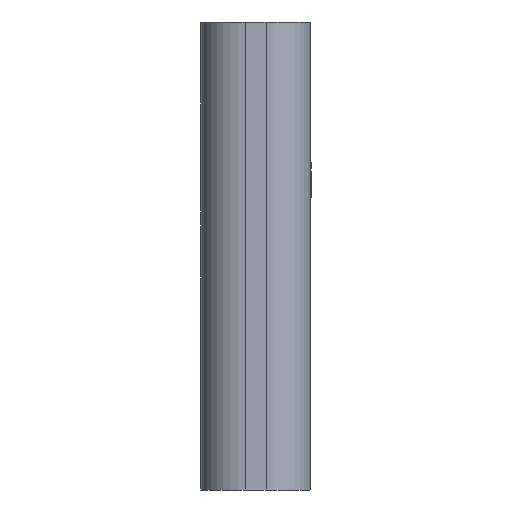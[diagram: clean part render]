
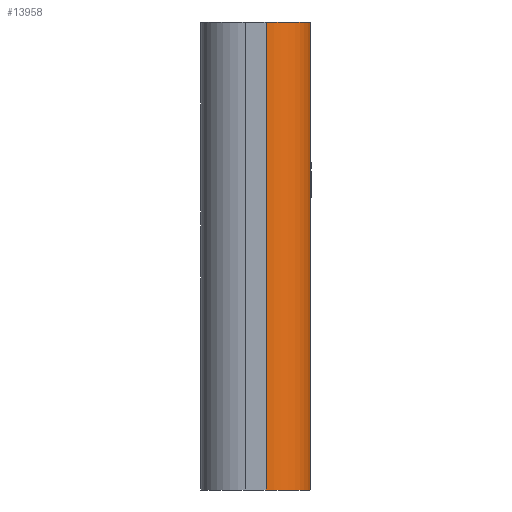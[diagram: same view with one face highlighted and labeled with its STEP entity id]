
A CAD part, left-side view. The second image highlights one B-rep face of the part: STEP entity #13958.
In plain terms, the highlighted cylindrical face has radius 1.28 mm (diameter 2.56 mm), a partial arc.
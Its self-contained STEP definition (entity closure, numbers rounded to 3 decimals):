
#1742=CARTESIAN_POINT('',(-5.87,-0.305,3.092));
#1743=DIRECTION('',(0.,0.,-1.));
#1744=DIRECTION('',(0.,-1.,0.));
#1745=AXIS2_PLACEMENT_3D('',#1742,#1743,#1744);
#2319=DIRECTION('',(0.,0.,-1.));
#2320=VECTOR('',#2319,13.5);
#2321=CARTESIAN_POINT('',(-5.87,-1.585,
3.092));
#2322=LINE('',#2321,#2320);
#2342=CARTESIAN_POINT('',(-5.87,-0.305,-10.408));
#2343=DIRECTION('',(0.,0.,1.));
#2344=DIRECTION('',(-1.,0.,0.));
#2345=AXIS2_PLACEMENT_3D('',#2342,#2343,#2344);
#2564=DIRECTION('',(0.,0.,-1.));
#2565=VECTOR('',#2564,5.);
#2566=CARTESIAN_POINT('',(-7.15,-0.305,3.092));
#2567=LINE('',#2566,#2565);
#2568=DIRECTION('',(0.,0.,-1.));
#2569=VECTOR('',#2568,8.5);
#2570=CARTESIAN_POINT('',(-7.15,-0.305,-1.908));
#2571=LINE('',#2570,#2569);
#8587=CARTESIAN_POINT('',(-5.87,-1.585,
-10.408));
#8589=VERTEX_POINT('',#8587);
#8591=CARTESIAN_POINT('',(-5.87,-1.585,
3.092));
#8592=VERTEX_POINT('',#8591);
#9057=CARTESIAN_POINT('',(-7.15,-0.305,-10.408));
#9058=VERTEX_POINT('',#9057);
#9938=CARTESIAN_POINT('',(-7.15,-0.305,3.092));
#9939=VERTEX_POINT('',#9938);
#10008=CARTESIAN_POINT('',(-7.15,-0.305,-1.908));
#10009=VERTEX_POINT('',#10008);
#13943=CARTESIAN_POINT('',(-5.87,-0.305,3.362));
#13944=DIRECTION('',(0.,0.,-1.));
#13945=DIRECTION('',(0.051,-0.999,0.));
#13946=AXIS2_PLACEMENT_3D('',#13943,#13944,#13945);
#13947=CYLINDRICAL_SURFACE('',#13946,1.28);
#13948=ORIENTED_EDGE('',*,*,#11035,.T.);
#13950=ORIENTED_EDGE('',*,*,#13949,.F.);
#13952=ORIENTED_EDGE('',*,*,#13951,.F.);
#13954=ORIENTED_EDGE('',*,*,#13953,.F.);
#13955=ORIENTED_EDGE('',*,*,#13227,.F.);
#13956=EDGE_LOOP('',(#13948,#13950,#13952,#13954,#13955));
#13957=FACE_OUTER_BOUND('',#13956,.F.);
#1746=CIRCLE('',#1745,1.28);
#2346=CIRCLE('',#2345,1.28);
#11035=EDGE_CURVE('',#8592,#8589,#2322,.T.);
#13227=EDGE_CURVE('',#8592,#9939,#1746,.T.);
#13949=EDGE_CURVE('',#9058,#8589,#2346,.T.);
#13951=EDGE_CURVE('',#10009,#9058,#2571,.T.);
#13953=EDGE_CURVE('',#9939,#10009,#2567,.T.);
#13958=ADVANCED_FACE('',(#13957),#13947,.T.);
